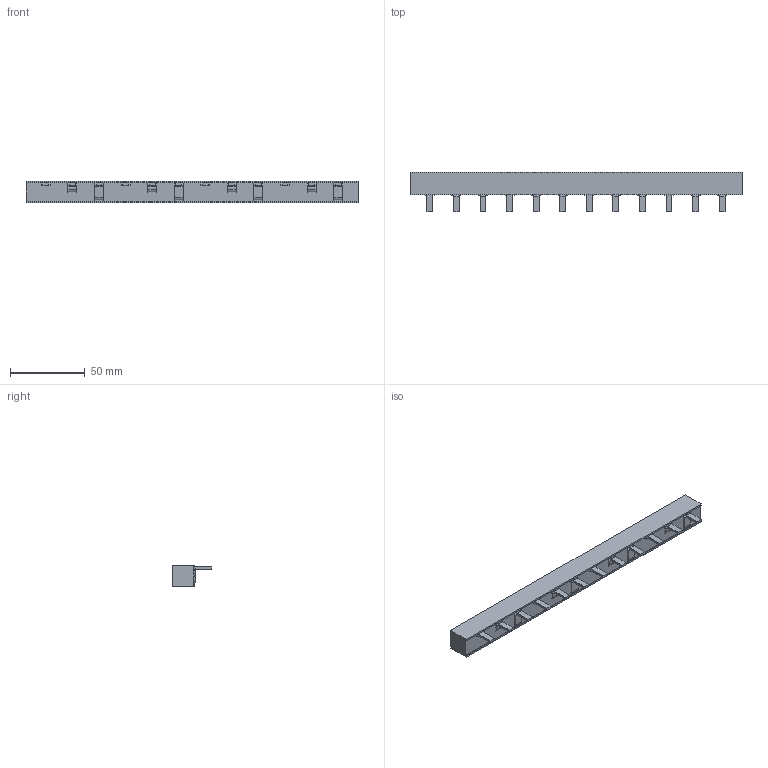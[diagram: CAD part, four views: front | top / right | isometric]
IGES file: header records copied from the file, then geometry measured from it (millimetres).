
Start section: SolidWorks IGES file using analytic representation for surfaces
Global section: file name: \\Brjgs100\dfsweg\GROUPS\BR_SC_JGS_WA_TECNICO\ENG\Usuarios\Rodrigob\conversão\Linha Predial\Produto\Minidisjuntores WEG\Acessorios\BR3-4\BR3-4.IGS; native system: SolidWorks 2018; preprocessor: SolidWorks 2018; author: rodrigob; date: 190507.082656; units: millimetre
Bounding box: 222.4 x 26.5 x 14.5 mm (x, y, z)
Surface area: 18898 mm2 (no closed solid volume)
Topology: 0 solids, 0 shells, 276 faces, 1976 edges, 1976 vertices
Faces by surface type: bspline 220, revolution 56
